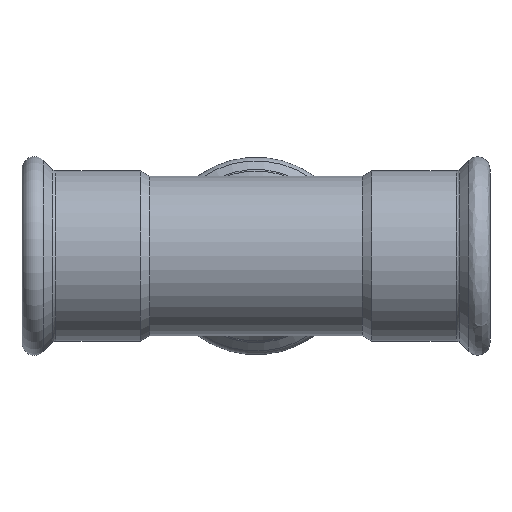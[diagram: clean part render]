
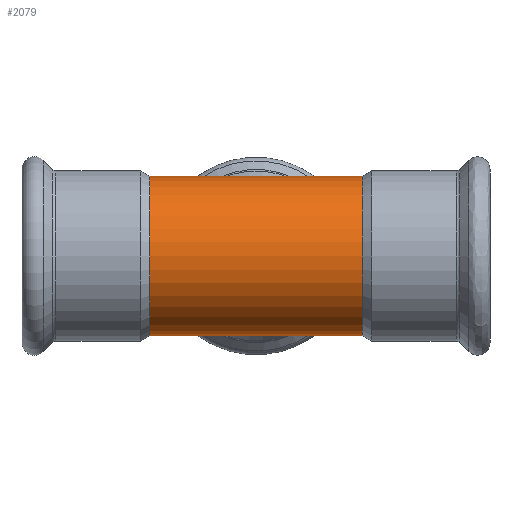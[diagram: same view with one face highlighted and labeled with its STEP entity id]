
A CAD part, front view. The second image highlights one B-rep face of the part: STEP entity #2079.
In plain terms, the highlighted cylindrical face has radius 32 mm (diameter 64 mm), a full revolution.
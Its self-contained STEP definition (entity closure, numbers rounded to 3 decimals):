
#1266=CARTESIAN_POINT('',(0.,0.0,-32.));
#1267=VERTEX_POINT('',#1266);
#1268=CARTESIAN_POINT('',(0.,0.0,32.));
#1269=VERTEX_POINT('',#1268);
#1270=CARTESIAN_POINT('',(0.,0.0,0.0));
#1271=DIRECTION('',(0.685,0.728,0.));
#1272=DIRECTION('',(-0.728,0.685,0.0));
#1273=AXIS2_PLACEMENT_3D('',#1270,#1271,#1272);
#1274=ELLIPSE('',#1273,46.69,32.);
#1275=EDGE_CURVE('',#1267,#1269,#1274,.T.);
#1488=CARTESIAN_POINT('',(0.0,0.0,0.0));
#1489=DIRECTION('',(-0.685,0.728,0.));
#1490=DIRECTION('',(0.728,0.685,0.0));
#1491=AXIS2_PLACEMENT_3D('',#1488,#1489,#1490);
#1492=ELLIPSE('',#1491,46.69,32.);
#1493=EDGE_CURVE('',#1269,#1267,#1492,.T.);
#1861=CARTESIAN_POINT('',(42.654,32.,0.0));
#1862=VERTEX_POINT('',#1861);
#1863=CARTESIAN_POINT('',(42.654,0.,0.0));
#1864=DIRECTION('',(1.0,0.0,0.0));
#1865=DIRECTION('',(0.0,1.0,0.0));
#1866=AXIS2_PLACEMENT_3D('',#1863,#1864,#1865);
#1867=CIRCLE('',#1866,32.);
#1868=EDGE_CURVE('',#1862,#1862,#1867,.T.);
#2049=CARTESIAN_POINT('',(-42.654,32.,0.0));
#2050=VERTEX_POINT('',#2049);
#2051=CARTESIAN_POINT('',(-42.654,0.,0.0));
#2052=DIRECTION('',(1.0,0.0,0.0));
#2053=DIRECTION('',(0.0,1.0,0.0));
#2054=AXIS2_PLACEMENT_3D('',#2051,#2052,#2053);
#2055=CIRCLE('',#2054,32.);
#2056=EDGE_CURVE('',#2050,#2050,#2055,.T.);
#2064=CARTESIAN_POINT('',(-21.327,0.,0.0));
#2065=DIRECTION('',(1.0,0.,0.0));
#2066=DIRECTION('',(0.0,1.0,0.0));
#2067=AXIS2_PLACEMENT_3D('',#2064,#2065,#2066);
#2068=CYLINDRICAL_SURFACE('',#2067,32.);
#2069=ORIENTED_EDGE('',*,*,#1868,.F.);
#2070=EDGE_LOOP('',(#2069));
#2071=FACE_OUTER_BOUND('',#2070,.T.);
#2072=ORIENTED_EDGE('',*,*,#1275,.F.);
#2073=ORIENTED_EDGE('',*,*,#1493,.F.);
#2074=EDGE_LOOP('',(#2072,#2073));
#2075=FACE_BOUND('',#2074,.T.);
#2076=ORIENTED_EDGE('',*,*,#2056,.T.);
#2077=EDGE_LOOP('',(#2076));
#2078=FACE_BOUND('',#2077,.T.);
#2079=ADVANCED_FACE('',(#2071,#2075,#2078),#2068,.T.);
